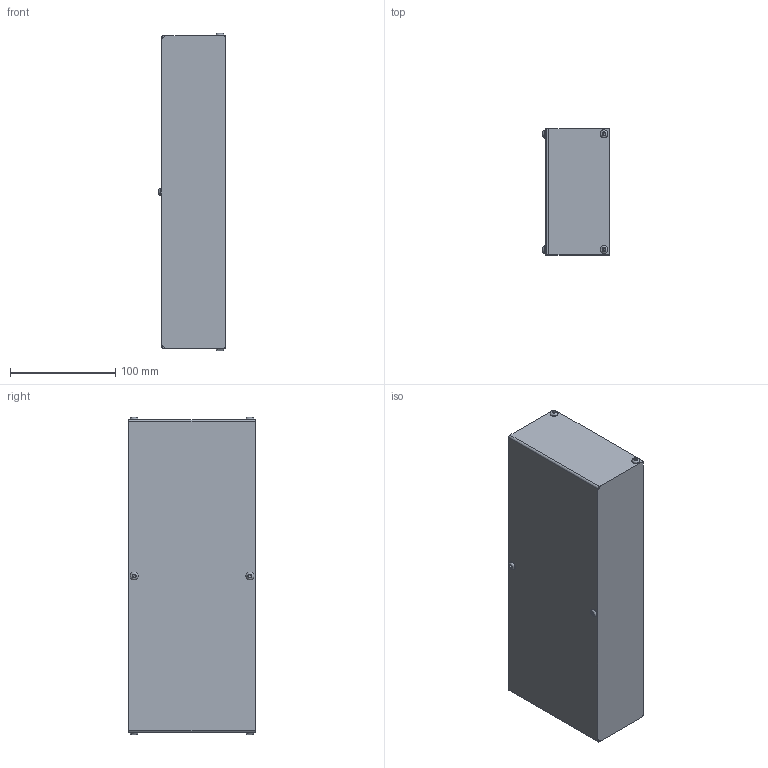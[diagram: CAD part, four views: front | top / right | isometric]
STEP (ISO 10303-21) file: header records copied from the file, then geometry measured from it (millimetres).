
FILE_DESCRIPTION(/* description */ (''),/* implementation_level */ '2;1');
FILE_NAME(/* name */ 'X:\VIRI ZA WEB\CAD DATOTEKE\LINEARNE ENOTE UNIMOTION\DODATNA OPREMA ZA LINEARNE ENOTE\STRANSKI POGONI\CTV-MTV\CTV 145-MTV 80\MSD CTV 145 T2 2 100 X 100\izvoz\MSD CTV 145 T2 2 100 X 100.stp',/* time_stamp */ '2016-06-06T13:26:08+02:00',/* author */ ('Hypex'),/* organization */ ('Hypex'),/* preprocessor_version */ 'ST-DEVELOPER v16.1',/* originating_system */ 'Autodesk Inventor 2016',/* authorisation */ '');
FILE_SCHEMA (('AUTOMOTIVE_DESIGN { 1 0 10303 214 3 1 1 }'));
Length unit declared in the file: millimetre
Products named in the file (1): MSD CTV 145 T2 2 100 X 100
Bounding box: 63.2 x 120 x 301.4 mm (x, y, z)
Volume: 2101245.9 mm3; surface area: 130314.7 mm2
Topology: 1 solids, 13 shells, 190 faces, 472 edges, 311 vertices
Faces by surface type: plane 109, cylinder 49, cone 20, bspline 6, torus 6
Full cylindrical faces by diameter (mm): 3.242 x4, 4 x6, 5 x6, 6.2 x4, 7.6 x6, 30 x1
Entity records: 5427 total; most frequent: CARTESIAN_POINT 1097, DIRECTION 854, ORIENTED_EDGE 776, EDGE_CURVE 388, AXIS2_PLACEMENT_3D 323, VERTEX_POINT 278, EDGE_LOOP 260, LINE 208
